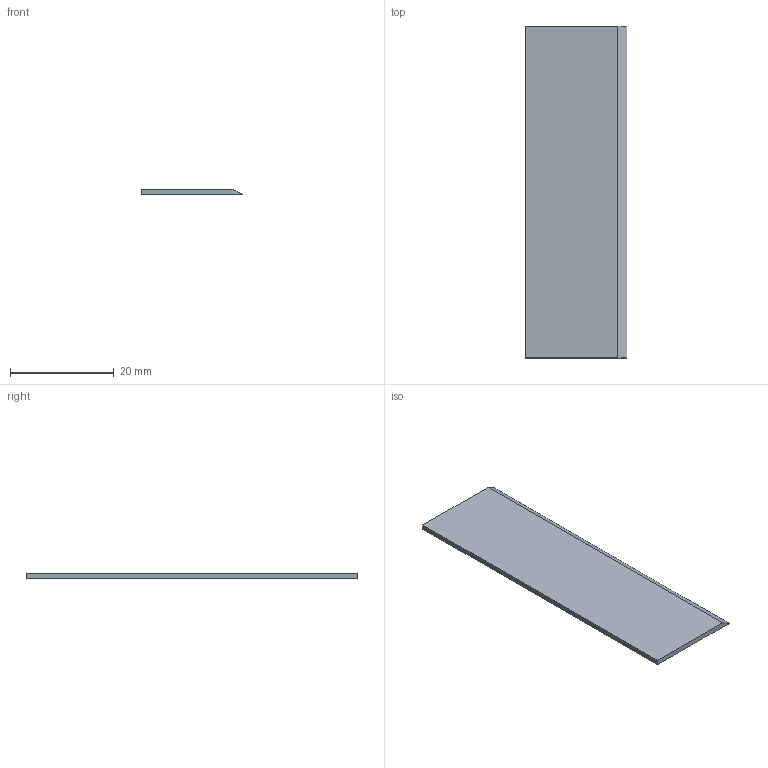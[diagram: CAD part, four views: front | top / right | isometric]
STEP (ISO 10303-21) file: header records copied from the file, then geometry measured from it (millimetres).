
FILE_DESCRIPTION(('Open CASCADE Model'),'2;1');
FILE_NAME('Open CASCADE Shape Model','2026-10-16T04:49:54',('Author'),( 'Open CASCADE'),'Open CASCADE STEP processor 7.9','Open CASCADE 7.9' ,'Unknown');
FILE_SCHEMA(('AUTOMOTIVE_DESIGN { 1 0 10303 214 1 1 1 1 }'));
Length unit declared in the file: millimetre
Products named in the file (1): Open CASCADE STEP translator 7.9 6
Bounding box: 19.5 x 64 x 1 mm (x, y, z)
Volume: 1193.6 mm3; surface area: 2614.7 mm2
Topology: 1 solids, 1 shells, 6 faces, 12 edges, 8 vertices
Faces by surface type: plane 6
Entity records: 322 total; most frequent: CARTESIAN_POINT 51, DIRECTION 50, LINE 36, VECTOR 36, ORIENTED_EDGE 24, PCURVE 24, DEFINITIONAL_REPRESENTATION 24, EDGE_CURVE 12
